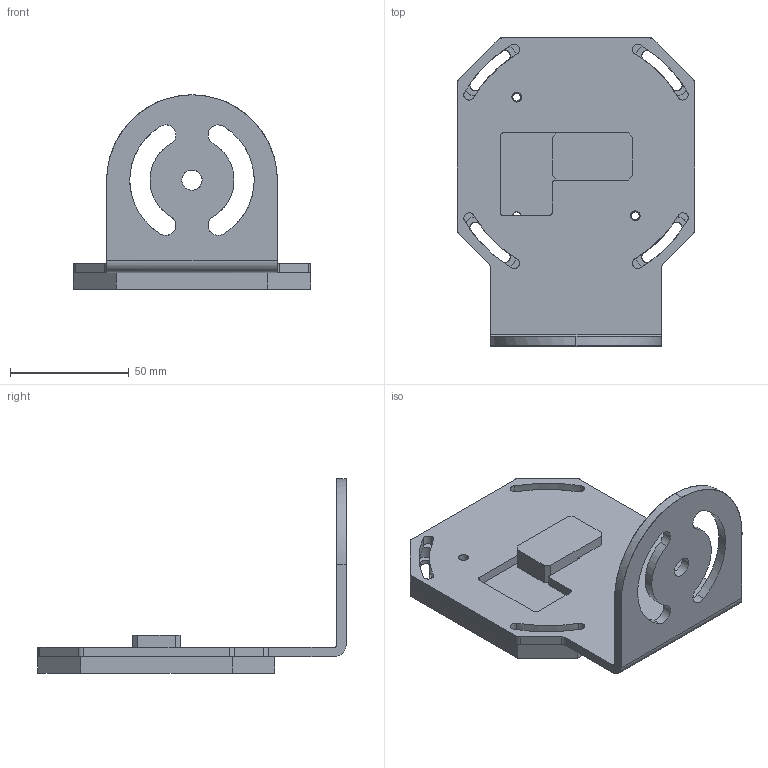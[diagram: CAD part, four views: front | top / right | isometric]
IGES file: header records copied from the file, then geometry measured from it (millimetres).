
Global section: file name: C:\Users\acarrieri\Desktop\PDS\DSD_IGS-ST\DSD0569.igs; preprocessor: I-DEAS 3D IGES Translator 13; date: 20130516.122046; units: millimetre
Bounding box: 100 x 130 x 82 mm (x, y, z)
Surface area: 55248.7 mm2 (no closed solid volume)
Topology: 0 solids, 0 shells, 128 faces, 1310 edges, 1631 vertices
Faces by surface type: bspline 128
